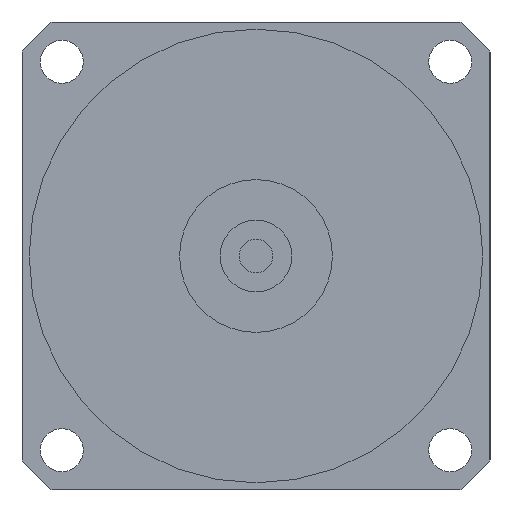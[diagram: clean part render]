
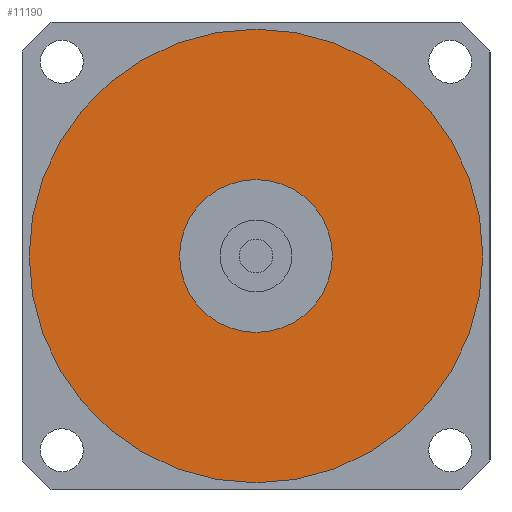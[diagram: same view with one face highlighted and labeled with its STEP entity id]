
A CAD part, left-side view. The second image highlights one B-rep face of the part: STEP entity #11190.
In plain terms, the highlighted planar face has unit normal (-1, 0, 0) as drawn and (0, 0, -1) by its records, which use the part's own axes.
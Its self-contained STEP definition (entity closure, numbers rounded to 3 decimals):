
#10530=CARTESIAN_POINT('',(0.,16.,-32.5));
#10540=VERTEX_POINT('',#10530);
#10590=CARTESIAN_POINT('',(0.,0.,
-32.5));
#10600=DIRECTION('',(0.,0.,1.));
#10610=DIRECTION('',(1.,0.,0.));
#10620=AXIS2_PLACEMENT_3D('',#10590,#10600,#10610);
#10630=CIRCLE('',#10620,16.);
#10640=CARTESIAN_POINT('',(0.,-16.,-32.5));
#10650=VERTEX_POINT('',#10640);
#10660=EDGE_CURVE('',#10540,#10650,#10630,.T.);
#10860=CARTESIAN_POINT('',(0.,0.,
-32.5));
#10870=DIRECTION('',(0.,0.,1.));
#10880=DIRECTION('',(0.,1.,0.));
#10890=AXIS2_PLACEMENT_3D('',#10860,#10870,#10880);
#10900=PLANE('',#10890);
#10910=CARTESIAN_POINT('',(0.,0.,
-32.5));
#10920=DIRECTION('',(0.,0.,1.));
#10930=DIRECTION('',(1.,0.,0.));
#10940=AXIS2_PLACEMENT_3D('',#10910,#10920,#10930);
#10950=CIRCLE('',#10940,47.5);
#10960=CARTESIAN_POINT('',(47.5,0.,-32.5));
#10970=VERTEX_POINT('',#10960);
#10980=CARTESIAN_POINT('',(0.,47.5,-32.5));
#10990=VERTEX_POINT('',#10980);
#11000=EDGE_CURVE('',#10970,#10990,#10950,.T.);
#11010=ORIENTED_EDGE('',*,*,#11000,.F.);
#11020=CARTESIAN_POINT('',(0.,-47.5,-32.5));
#11030=VERTEX_POINT('',#11020);
#11040=EDGE_CURVE('',#10990,#11030,#10950,.T.);
#11050=ORIENTED_EDGE('',*,*,#11040,.F.);
#11060=EDGE_CURVE('',#11030,#10970,#10950,.T.);
#11070=ORIENTED_EDGE('',*,*,#11060,.F.);
#11080=EDGE_LOOP('',(#11070,#11050,#11010));
#11090=FACE_OUTER_BOUND('',#11080,.T.);
#11100=ORIENTED_EDGE('',*,*,#10660,.T.);
#11110=CARTESIAN_POINT('',(16.,0.,-32.5));
#11120=VERTEX_POINT('',#11110);
#11130=EDGE_CURVE('',#11120,#10540,#10630,.T.);
#11140=ORIENTED_EDGE('',*,*,#11130,.T.);
#11150=EDGE_CURVE('',#10650,#11120,#10630,.T.);
#11160=ORIENTED_EDGE('',*,*,#11150,.T.);
#11170=EDGE_LOOP('',(#11160,#11140,#11100));
#11180=FACE_BOUND('',#11170,.T.);
#11190=ADVANCED_FACE('',(#11090,#11180),#10900,.F.);
